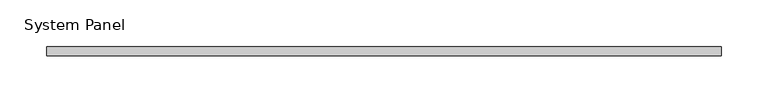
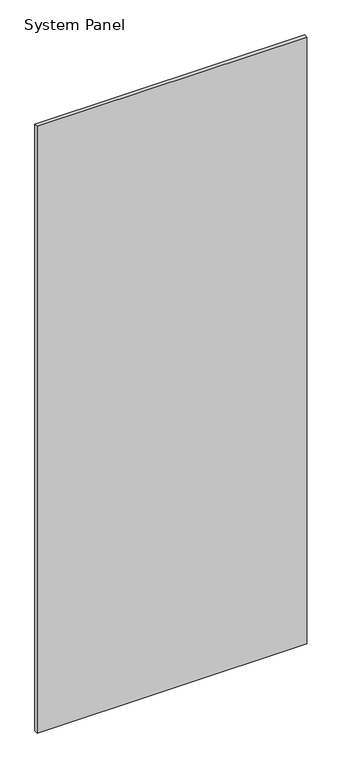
"""IFC4 building model written with IfcOpenShell, lengths in millimetres: plate geometry, System Panel : стекло_смещение_0."""

from ifc_helpers import new_model, si_unit, origin, origin_with_axes, place, context, project, spatial, polyline, outline, extrude, source, transform, mapped, element, save


def system_panel_4182174c(model_context):
    return source(origin(), model_context, "Body", "SweptSolid", [
        extrude(outline(polyline([(362.5, -5.0), (-362.5, -5.0), (-362.5, 5.0), (362.5, 5.0), (362.5, -5.0)])), origin_with_axes(), (0.0, 0.0, 1.0), 1725.0),
    ])


if __name__ == "__main__":
    model = new_model("IFC4")
    model_context = context("Model", 3, world=origin())
    ifc_project = project(units=[si_unit("LENGTHUNIT", "METRE", prefix="MILLI")], contexts=[model_context])
    site = spatial("IfcSite", under=ifc_project)
    building = spatial("IfcBuilding", under=site)
    placement = place(None, origin())
    system_panel_shape = system_panel_4182174c(model_context)
    element("IfcPlate", 1, ObjectType="System Panel : стекло_смещение_0", at=placement, inside=building, context=model_context, shape_type="MappedRepresentation", body=[
        mapped(system_panel_shape, transform((0.0, 0.0, 0.0), x_axis=(1.0, 0.0, 0.0), y_axis=(0.0, 1.0, 0.0), z_axis=(0.0, 0.0, 1.0))),
    ])
    save(model, "model.ifc")
